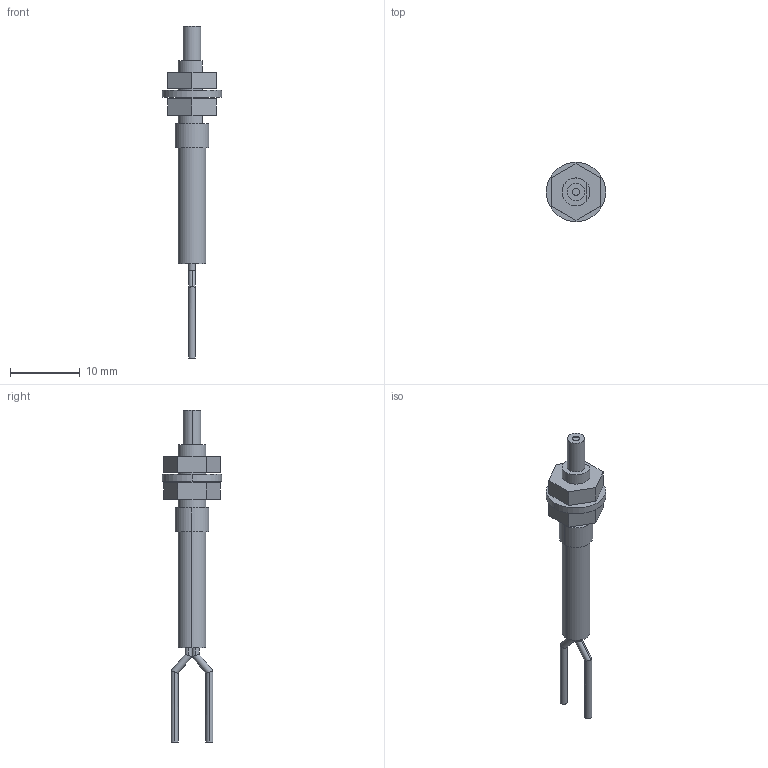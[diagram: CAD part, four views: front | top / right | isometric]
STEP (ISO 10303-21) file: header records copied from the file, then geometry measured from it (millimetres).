
FILE_DESCRIPTION (( 'STEP AP203' ), '1' );
FILE_NAME ('FD-NFM2.STEP', '2005-09-04T10:09:05', ( '川島良英' ), ( ' ' ), 'SwSTEP 2.0', 'SolidWorks 2004251', '' );
FILE_SCHEMA (( 'CONFIG_CONTROL_DESIGN' ));
Length unit declared in the file: millimetre
Products named in the file (1): FD-NFM2
Bounding box: 8.5 x 8.5 x 47.5 mm (x, y, z)
Volume: 644.4 mm3; surface area: 1020 mm2
Topology: 5 solids, 5 shells, 57 faces, 126 edges, 84 vertices
Faces by surface type: cylinder 29, plane 28
Entity records: 1663 total; most frequent: CARTESIAN_POINT 316, DIRECTION 268, ORIENTED_EDGE 252, EDGE_CURVE 126, AXIS2_PLACEMENT_3D 100, VERTEX_POINT 84, EDGE_LOOP 68, VECTOR 68
